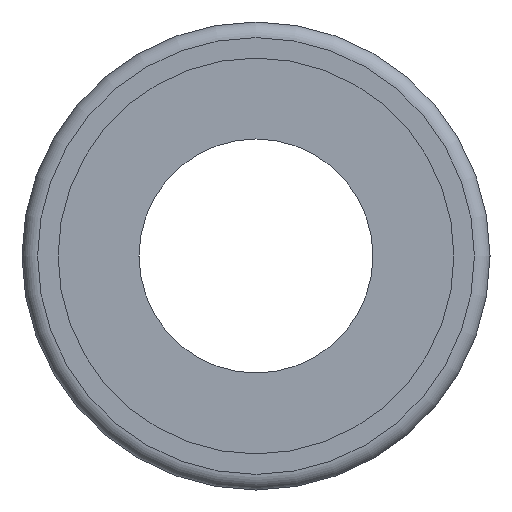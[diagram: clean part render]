
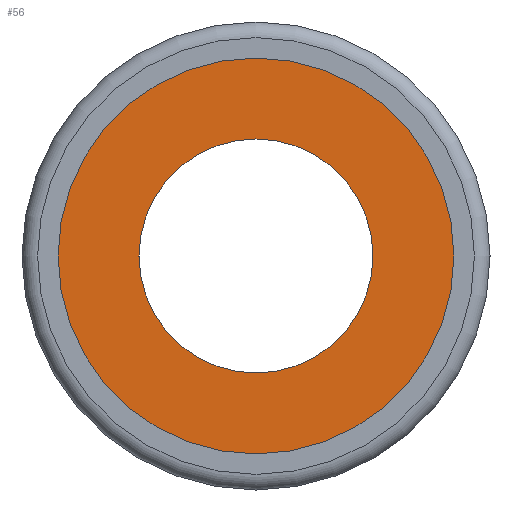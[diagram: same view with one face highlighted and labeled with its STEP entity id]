
A CAD part, left-side view. The second image highlights one B-rep face of the part: STEP entity #56.
In plain terms, the highlighted planar face has unit normal (-1, 0, 0).
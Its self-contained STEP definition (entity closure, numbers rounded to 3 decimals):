
#56 = ADVANCED_FACE( '', ( #123, #124 ), #125, .T. );
#123 = FACE_BOUND( '', #202, .T. );
#124 = FACE_OUTER_BOUND( '', #203, .T. );
#125 = PLANE( '', #204 );
#202 = EDGE_LOOP( '', ( #289 ) );
#203 = EDGE_LOOP( '', ( #290 ) );
#204 = AXIS2_PLACEMENT_3D( '', #291, #292, #293 );
#289 = ORIENTED_EDGE( '', *, *, #374, .F. );
#290 = ORIENTED_EDGE( '', *, *, #361, .T. );
#291 = CARTESIAN_POINT( '', ( 1.75, 4.038, 0. ) );
#292 = DIRECTION( '', ( -1., 0., 0. ) );
#293 = DIRECTION( '', ( 0., 1., 0. ) );
#361 = EDGE_CURVE( '', #401, #401, #402, .T. );
#374 = EDGE_CURVE( '', #422, #422, #423, .T. );
#401 = VERTEX_POINT( '', #455 );
#402 = CIRCLE( '', #456, 5.075 );
#422 = VERTEX_POINT( '', #476 );
#423 = CIRCLE( '', #477, 3. );
#455 = CARTESIAN_POINT( '', ( 1.75, 0., 5.075 ) );
#456 = AXIS2_PLACEMENT_3D( '', #510, #511, #512 );
#476 = CARTESIAN_POINT( '', ( 1.75, 0., 3. ) );
#477 = AXIS2_PLACEMENT_3D( '', #534, #535, #536 );
#510 = CARTESIAN_POINT( '', ( 1.75, 0., 0. ) );
#511 = DIRECTION( '', ( -1., 0., 0. ) );
#512 = DIRECTION( '', ( 0., 0., 1. ) );
#534 = CARTESIAN_POINT( '', ( 1.75, 0., 0. ) );
#535 = DIRECTION( '', ( -1., 0., 0. ) );
#536 = DIRECTION( '', ( 0., 0., 1. ) );
